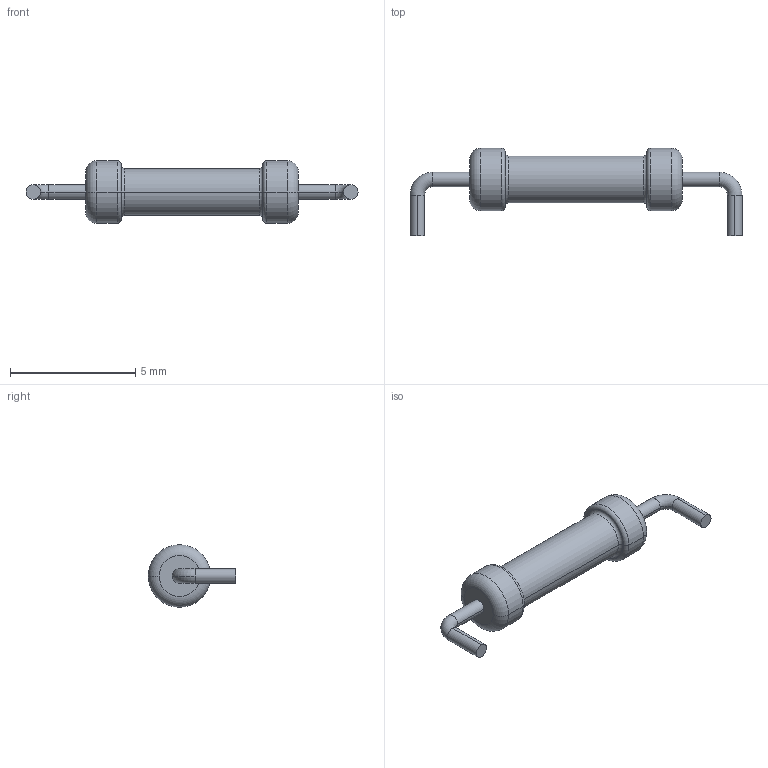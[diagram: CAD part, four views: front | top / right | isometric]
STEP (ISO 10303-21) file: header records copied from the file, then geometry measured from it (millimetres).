
FILE_DESCRIPTION (( 'STEP AP214' ), '1' );
FILE_NAME ( 'RESAD1270W58L850D250P.STEP', '2014-04-11T12:31:22', ( '' ), ( '' ), 'FPX Expert 2013', 'PCB Libraries', '' );
FILE_SCHEMA (( 'AUTOMOTIVE_DESIGN' ));
Length unit declared in the file: millimetre
Products named in the file (1): RESAD1270W58L850D250P
Bounding box: 13.28 x 3.5 x 2.5 mm (x, y, z)
Volume: 31.1 mm3; surface area: 80.9 mm2
Topology: 3 solids, 3 shells, 38 faces, 74 edges, 44 vertices
Faces by surface type: torus 16, cylinder 14, plane 8
Entity records: 1152 total; most frequent: DIRECTION 212, CARTESIAN_POINT 157, ORIENTED_EDGE 148, AXIS2_PLACEMENT_3D 99, EDGE_CURVE 74, CIRCLE 60, VERTEX_POINT 44, STYLED_ITEM 42
